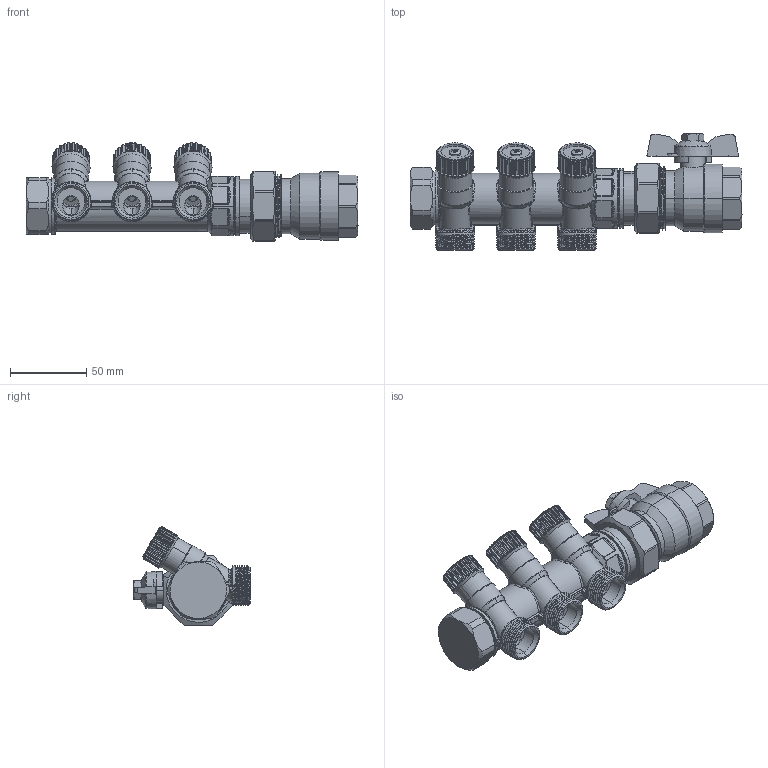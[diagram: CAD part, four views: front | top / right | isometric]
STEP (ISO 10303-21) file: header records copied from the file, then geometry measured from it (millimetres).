
FILE_DESCRIPTION (( 'STEP AP214' ), '1' );
FILE_NAME ('ADM213_Zestaw_podstawowy_rozdzielacza_do_wody_pitnej_2221300_0_3D_AFRISO.STEP', '2025-01-24T07:30:13', ( '' ), ( '' ), 'SwSTEP 2.0', 'SolidWorks 2024', '' );
FILE_SCHEMA (( 'AUTOMOTIVE_DESIGN' ));
Length unit declared in the file: millimetre
Products named in the file (25): Asta vitone collettori; Otturatore Vitone Coll G1; 68513503FRLN; 68513503FRS; o_ring_ADM_1inch; Body_n_1_1_4_ball_valve; M8_ADM; Nut_ADM_1_inch; Nut1_1_4_ball_valve; ring_screw_1_inch_ADM; Ball_valve_ADM; OR Asta; Ball_valve_1inch; Guarnizione piatta Otturatore; Seeger a filo Vitone; 9346615; OR Corpo Vitone_montato; Screw_1inch_ADM; 4761624; 9446822; ADM213_Zestaw_podstawowy_rozdzielacza_do_wody_pitnej_2221300_0_3D_AFRISO; 68513503FR; raczka_ADM; Corpo Vitone Coll; 3424698
Assembly tree (32 placements, depth 5):
  ADM213_Zestaw_podstawowy_rozdzielacza_do_wody_pitnej_2221300_0_3D_AFRISO
    68513503FR
      68513503FRS
        9446822  x3
          Corpo Vitone Coll
          Otturatore Vitone Coll G1
          Asta vitone collettori
          Seeger a filo Vitone
          Guarnizione piatta Otturatore
          OR Asta
          OR Corpo Vitone_montato
        68513503FRLN
        9346615  x3
        4761624  x3
        3424698
    Nut_ADM_1_inch
    Screw_1inch_ADM
      Nut1_1_4_ball_valve
      Body_n_1_1_4_ball_valve
      ring_screw_1_inch_ADM
      o_ring_ADM_1inch  x2
    Ball_valve_ADM
      Ball_valve_1inch
      raczka_ADM
      M8_ADM
Bounding box: 217.64 x 76.3 x 64.64 mm (x, y, z)
Volume: 157578.7 mm3; surface area: 118062.5 mm2
Topology: 43 solids, 43 shells, 3143 faces, 8016 edges, 5016 vertices
Faces by surface type: cylinder 1144, plane 894, bspline 442, torus 336, cone 280, sphere 47
Entity records: 140492 total; most frequent: CARTESIAN_POINT 92314, ORIENTED_EDGE 8950, DIRECTION 7169, EDGE_CURVE 4475, AXIS2_PLACEMENT_3D 2950, VERTEX_POINT 2797, EDGE_LOOP 1866, FACE_OUTER_BOUND 1769
